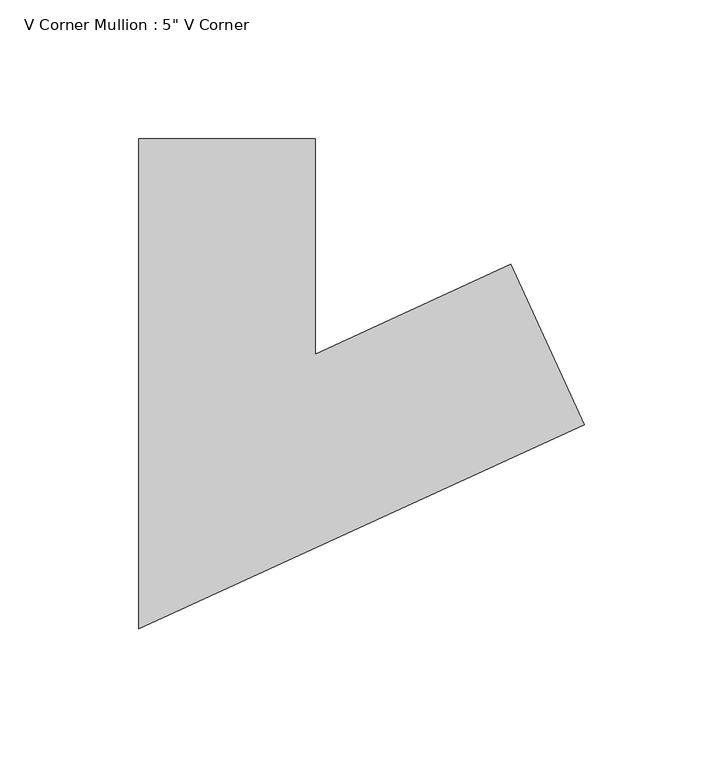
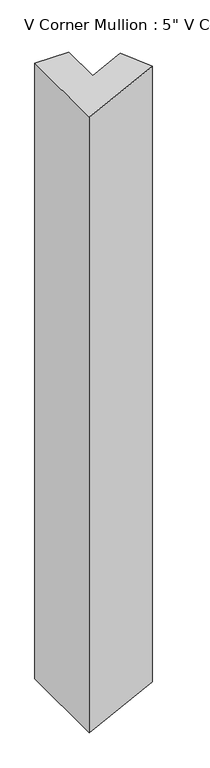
"""IFC4 building model written with IfcOpenShell, lengths in millimetres: member geometry."""

from ifc_helpers import new_model, si_unit, frame, origin, place, context, project, spatial, polyline, outline, extrude, source, transform, mapped, element, save


def member_55b94c3e(model_context):
    return source(origin(), model_context, "Body", "SweptSolid", [
        extrude(outline(polyline([(87.9205542, -39.5195451), (-72.5228811, -112.9476953), (-72.5228811, 63.5), (-9.0228811, 63.5), (-9.0228811, -14.0523047), (61.49523, 18.2208415), (87.9205542, -39.5195451)])), frame((0.0, 0.0, -1219.2), z_axis=(0.0, 0.0, 1.0), x_axis=(1.0, 0.0, 0.0)), (0.0, 0.0, 1.0), 1219.2),
    ])


if __name__ == "__main__":
    model = new_model("IFC4")
    model_context = context("Model", 3, world=origin())
    ifc_project = project(units=[si_unit("LENGTHUNIT", "METRE", prefix="MILLI")], contexts=[model_context])
    site = spatial("IfcSite", under=ifc_project)
    building = spatial("IfcBuilding", under=site)
    placement = place(None, origin())
    member_shape = member_55b94c3e(model_context)
    element("IfcMember", 1, ObjectType="V Corner Mullion : 5\" V Corner", at=placement, inside=building, context=model_context, shape_type="MappedRepresentation", body=[
        mapped(member_shape, transform((0.0, 0.0, 0.0), x_axis=(1.0, 0.0, 0.0), y_axis=(0.0, 1.0, 0.0), z_axis=(0.0, 0.0, 1.0))),
    ])
    save(model, "model.ifc")
